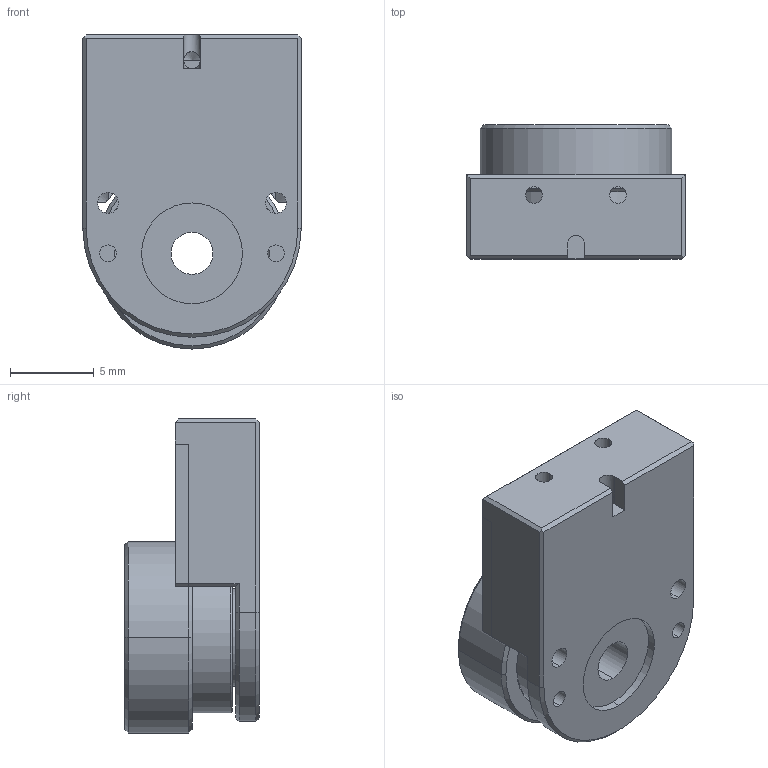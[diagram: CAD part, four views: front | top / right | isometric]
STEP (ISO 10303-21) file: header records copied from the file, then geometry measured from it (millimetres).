
FILE_DESCRIPTION (( 'STEP AP214' ), '1' );
FILE_NAME ('超声压电旋转马达（简化）.STEP', '2024-01-12T01:48:37', ( 'Sky123.Org' ), ( 'Sky123.Org' ), 'SwSTEP 2.0', 'SolidWorks 2016', '' );
FILE_SCHEMA (( 'AUTOMOTIVE_DESIGN' ));
Length unit declared in the file: millimetre
Products named in the file (5): 超声压电旋转马达台面; 4x9x4粣創; 超声压电旋转马达上盖(简化）; 超声压电旋转马达台体（简化）; 超声压电旋转马达（简化）
Assembly tree (4 placements, depth 2):
  超声压电旋转马达（简化）
    超声压电旋转马达台体（简化）
    超声压电旋转马达上盖(简化）
    4x9x4粣創
    超声压电旋转马达台面
Bounding box: 13 x 8 x 18.7 mm (x, y, z)
Volume: 966.6 mm3; surface area: 1749.9 mm2
Topology: 4 solids, 4 shells, 136 faces, 355 edges, 227 vertices
Faces by surface type: cylinder 63, plane 55, cone 14, torus 4
Entity records: 4645 total; most frequent: DIRECTION 790, CARTESIAN_POINT 746, ORIENTED_EDGE 708, EDGE_CURVE 354, AXIS2_PLACEMENT_3D 299, VERTEX_POINT 227, VECTOR 192, LINE 192
